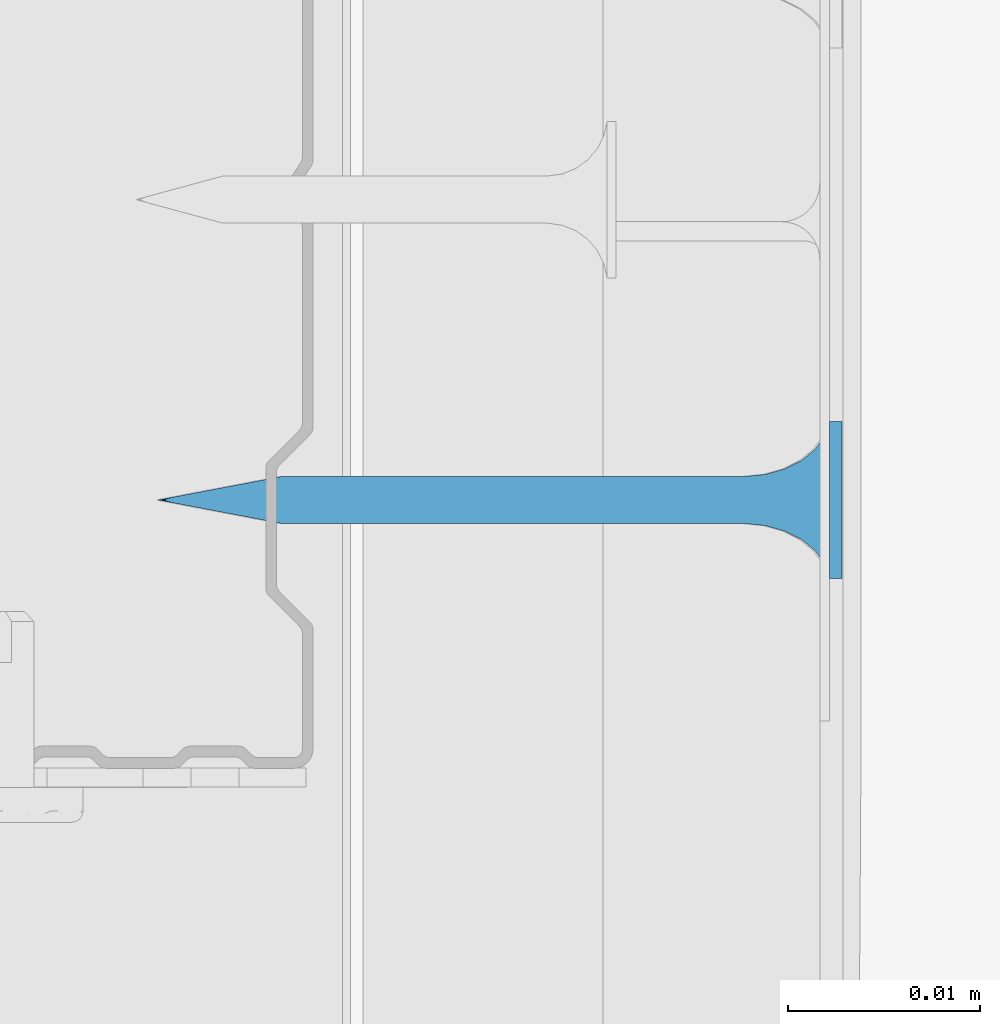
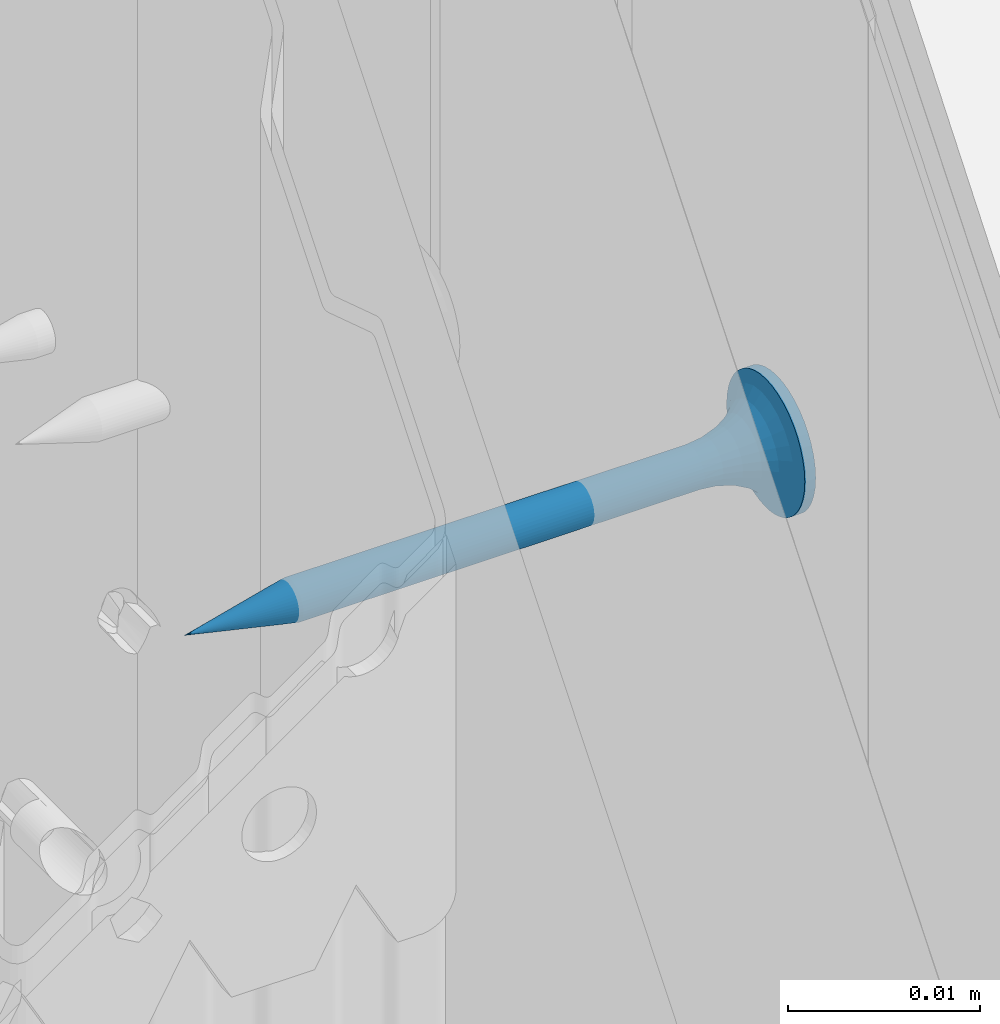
# One storey, part 14 of 62: 1 wall.
"""IFC2X3 building model written with IfcOpenShell, lengths in millimetres."""

from ifc_helpers import new_model, si_unit, frame, origin_with_axes, place, context, subcontext, project, spatial, faceted_brep, material, type_object, element, save


model = new_model("IFC2X3")

# Units and contexts
model_context = context("Model", 3, world=origin_with_axes())
body_context = subcontext(model_context, "Body", "Model", "MODEL_VIEW")
ifc_project = project(units=[si_unit("LENGTHUNIT", "METRE", prefix="MILLI"), si_unit("AREAUNIT", "SQUARE_METRE"), si_unit("VOLUMEUNIT", "CUBIC_METRE")], contexts=[model_context])

# Site, building, storey
site_placement = place(None, frame((2152.14102611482, -2015.0250894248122, 57.61556563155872), z_axis=(0.0, 0.0, 1.0), x_axis=(-1.1102230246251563e-16, 1.0, 0.0)))
site = spatial("IfcSite", under=ifc_project, at=site_placement, Name="Default Site", CompositionType="ELEMENT")
building_placement = place(site_placement, origin_with_axes())
building = spatial("IfcBuilding", under=site, at=building_placement, Name="Default Building", CompositionType="ELEMENT")
storey_placement = place(building_placement, origin_with_axes())
storey = spatial("IfcBuildingStorey", under=building, at=storey_placement, Name="Default Building Storey", CompositionType="ELEMENT", Elevation=57.61556563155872)

# Wall
ifc_material = material(Name="Default")
wall_type = type_object("IfcWallType", Name="Wkręt RIGIPS TN 35#33", PredefinedType="NOTDEFINED")
wall_placement = place(storey_placement, frame((2959.4704820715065, 6749.478129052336, -452.93788946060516), z_axis=(0.0, 0.0, 1.0), x_axis=(1.0, 0.0, 0.0)))
element("IfcWall", 1, at=wall_placement, inside=storey, type_object=wall_type, material=ifc_material, Name="Wkręt RIGIPS TN 35", context=body_context, shape_type="Brep", body=[
    faceted_brep([(-141.48753293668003, -4832.598052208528, 555.1619773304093), (-141.48753293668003, -4833.259714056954, 555.1619773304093), (-141.5377465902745, -4833.259714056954, 555.8000000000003), (-141.5377465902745, -4832.598052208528, 555.8000000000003), (-141.33812900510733, -4832.598052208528, 554.5396649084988), (-141.33812900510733, -4833.259714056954, 554.5396649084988), (-141.09321328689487, -4832.598052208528, 553.948386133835), (-141.09321328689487, -4833.259714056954, 553.948386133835), (-140.75881656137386, -4832.598052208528, 553.4027002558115), (-140.75881656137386, -4833.259714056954, 553.4027002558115), (-140.34317265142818, -4833.259714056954, 552.9160436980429), (-140.45417279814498, -4832.598052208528, 553.0314906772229), (-139.8565160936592, -4833.259714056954, 552.5003997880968), (-140.1080097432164, -4832.598052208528, 552.6986613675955), (-139.72512626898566, -4832.598052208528, 552.4088260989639), (-139.31083021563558, -4833.259714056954, 552.1660030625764), (-139.31083021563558, -4832.598052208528, 552.1660030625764), (-138.71955144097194, -4833.259714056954, 551.9210873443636), (-138.87086516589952, -4832.598052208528, 551.9735585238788), (-138.41133029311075, -4832.598052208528, 551.8341602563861), (-138.0972390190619, -4833.259714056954, 551.7716834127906), (-137.9385961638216, -4832.598052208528, 551.7497405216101), (-137.45921634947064, -4833.259714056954, 551.7214697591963), (-137.45921634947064, -4832.598052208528, 551.7214697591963), (-136.82119367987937, -4832.598052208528, 551.7716834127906), (-136.82119367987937, -4833.259714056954, 551.7716834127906), (-136.19888125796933, -4832.598052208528, 551.9210873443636), (-136.19888125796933, -4833.259714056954, 551.9210873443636), (-135.6076024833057, -4832.598052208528, 552.1660030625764), (-135.6076024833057, -4833.259714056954, 552.1660030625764), (-135.06191660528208, -4832.598052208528, 552.5003997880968), (-135.06191660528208, -4833.259714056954, 552.5003997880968), (-134.57526004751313, -4832.598052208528, 552.9160436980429), (-134.57526004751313, -4833.259714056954, 552.9160436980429), (-134.1596161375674, -4832.598052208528, 553.4027002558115), (-134.1596161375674, -4833.259714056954, 553.4027002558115), (-133.8252194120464, -4832.598052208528, 553.948386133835), (-133.8252194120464, -4833.259714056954, 553.948386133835), (-133.58030369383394, -4832.598052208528, 554.5396649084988), (-133.58030369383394, -4833.259714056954, 554.5396649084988), (-133.3806861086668, -4833.259714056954, 555.8000000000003), (-133.3806861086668, -4832.598052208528, 555.8000000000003), (-133.43089976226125, -4832.598052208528, 556.4380226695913), (-133.43089976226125, -4833.259714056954, 556.4380226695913), (-133.43089976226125, -4833.259714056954, 555.1619773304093), (-133.43089976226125, -4832.598052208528, 555.1619773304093), (-133.58030369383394, -4832.598052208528, 557.0603350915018), (-133.58030369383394, -4833.259714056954, 557.0603350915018), (-133.8252194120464, -4832.598052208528, 557.6516138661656), (-133.8252194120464, -4833.259714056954, 557.6516138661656), (-134.1596161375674, -4832.598052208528, 558.1972997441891), (-134.1596161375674, -4833.259714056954, 558.1972997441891), (-134.57526004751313, -4832.598052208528, 558.6839563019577), (-134.57526004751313, -4833.259714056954, 558.6839563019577), (-135.06191660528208, -4832.598052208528, 559.0996002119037), (-135.06191660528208, -4833.259714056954, 559.0996002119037), (-135.6076024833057, -4832.598052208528, 559.4339969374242), (-135.6076024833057, -4833.259714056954, 559.4339969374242), (-136.19888125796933, -4832.598052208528, 559.678912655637), (-136.19888125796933, -4833.259714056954, 559.678912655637), (-136.82119367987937, -4832.598052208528, 559.82831658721), (-136.82119367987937, -4833.259714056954, 559.82831658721), (-137.45921634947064, -4832.598052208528, 559.8785302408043), (-137.45921634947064, -4833.259714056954, 559.8785302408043), (-138.0972390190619, -4832.598052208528, 559.82831658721), (-138.0972390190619, -4833.259714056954, 559.82831658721), (-138.71955144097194, -4832.598052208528, 559.678912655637), (-138.71955144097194, -4833.259714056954, 559.678912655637), (-139.31083021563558, -4832.598052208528, 559.4339969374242), (-139.31083021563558, -4833.259714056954, 559.4339969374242), (-139.8565160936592, -4832.598052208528, 559.0996002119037), (-139.8565160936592, -4833.259714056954, 559.0996002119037), (-140.34317265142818, -4832.598052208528, 558.6839563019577), (-140.34317265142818, -4833.259714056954, 558.6839563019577), (-140.75881656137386, -4832.598052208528, 558.1972997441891), (-140.75881656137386, -4833.259714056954, 558.1972997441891), (-141.09321328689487, -4832.598052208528, 557.6516138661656), (-141.09321328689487, -4833.259714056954, 557.6516138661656), (-141.33812900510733, -4832.598052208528, 557.0603350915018), (-141.33812900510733, -4833.259714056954, 557.0603350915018), (-141.48753293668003, -4832.598052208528, 556.4380226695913), (-141.48753293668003, -4833.259714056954, 556.4380226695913), (-137.65172779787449, -4828.2062944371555, 554.5845305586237), (-137.45921634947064, -4828.2062944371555, 554.5693795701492), (-137.8060615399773, -4829.281368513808, 554.5055561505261), (-137.45921634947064, -4829.281368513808, 554.4598930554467), (-137.83949898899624, -4828.2062944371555, 554.6296104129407), (-138.12926982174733, -4829.281368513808, 554.6394333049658), (-138.01790634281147, -4828.2062944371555, 554.7035091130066), (-138.1825568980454, -4828.2062944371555, 554.8044072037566), (-138.40681506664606, -4829.281368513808, 554.8524012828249), (-138.3293964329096, -4828.2062944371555, 554.9298199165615), (-138.45480914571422, -4828.2062944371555, 555.0766594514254), (-138.6197830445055, -4829.281368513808, 555.1299465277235), (-138.5557072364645, -4828.2062944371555, 555.2413100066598), (-138.753660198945, -4829.281368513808, 555.4531548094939), (-138.62960593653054, -4828.2062944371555, 555.4197173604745), (-138.67468579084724, -4828.2062944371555, 555.6074885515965), (-138.79932329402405, -4829.281368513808, 555.7999999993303), (-138.68983677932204, -4828.2062944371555, 555.8000000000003), (-138.67468579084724, -4828.2062944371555, 555.9925114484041), (-138.753660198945, -4829.281368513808, 556.1468451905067), (-138.62960593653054, -4828.2062944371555, 556.1802826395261), (-138.6197830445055, -4829.281368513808, 556.4700534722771), (-138.5557072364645, -4828.2062944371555, 556.3586899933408), (-138.45480914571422, -4828.2062944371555, 556.5233405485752), (-138.40681506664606, -4829.281368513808, 556.7475987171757), (-138.3293964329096, -4828.2062944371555, 556.670180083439), (-138.1825568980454, -4828.2062944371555, 556.795592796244), (-138.12926982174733, -4829.281368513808, 556.9605666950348), (-138.01790634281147, -4828.2062944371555, 556.896490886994), (-137.8060615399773, -4829.281368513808, 557.0944438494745), (-137.83949898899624, -4828.2062944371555, 556.9703895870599), (-137.65172779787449, -4828.2062944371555, 557.0154694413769), (-137.45921634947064, -4829.281368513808, 557.1401069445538), (-137.45921634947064, -4828.2062944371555, 557.0306204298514), (-137.26670490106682, -4828.2062944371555, 557.0154694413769), (-137.11237115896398, -4829.281368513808, 557.0944438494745), (-137.07893370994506, -4828.2062944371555, 556.9703895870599), (-136.78916287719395, -4829.281368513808, 556.9605666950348), (-136.9005263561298, -4828.2062944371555, 556.896490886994), (-136.7358758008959, -4828.2062944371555, 556.795592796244), (-136.5116176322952, -4829.281368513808, 556.7475987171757), (-136.58903626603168, -4828.2062944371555, 556.670180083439), (-136.46362355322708, -4828.2062944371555, 556.5233405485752), (-136.2986496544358, -4829.281368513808, 556.4700534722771), (-136.36272546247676, -4828.2062944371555, 556.3586899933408), (-136.16477249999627, -4829.281368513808, 556.1468451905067), (-136.28882676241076, -4828.2062944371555, 556.1802826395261), (-136.24374690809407, -4828.2062944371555, 555.9925114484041), (-136.11910940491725, -4829.281368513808, 555.7999999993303), (-136.22859591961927, -4828.2062944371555, 555.8000000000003), (-136.24374690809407, -4828.2062944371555, 555.6074885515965), (-136.16477249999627, -4829.281368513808, 555.4531548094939), (-136.28882676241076, -4828.2062944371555, 555.4197173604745), (-136.2986496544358, -4829.281368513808, 555.1299465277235), (-136.36272546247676, -4828.2062944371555, 555.2413100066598), (-136.46362355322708, -4828.2062944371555, 555.0766594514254), (-136.5116176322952, -4829.281368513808, 554.8524012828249), (-136.58903626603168, -4828.2062944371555, 554.9298199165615), (-136.7358758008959, -4828.2062944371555, 554.8044072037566), (-136.78916287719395, -4829.281368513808, 554.6394333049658), (-136.9005263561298, -4828.2062944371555, 554.7035091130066), (-137.11237115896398, -4829.281368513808, 554.5055561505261), (-137.07893370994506, -4828.2062944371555, 554.6296104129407), (-137.26670490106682, -4828.2062944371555, 554.5845305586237), (-137.45921634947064, -4830.288222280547, 554.1737111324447), (-137.88013087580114, -4830.288222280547, 554.2291255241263), (-138.2723607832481, -4830.288222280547, 554.3915925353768), (-138.60917621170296, -4830.288222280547, 554.6500401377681), (-138.8676238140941, -4830.288222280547, 554.9868555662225), (-139.03009082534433, -4830.288222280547, 555.37908547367), (-139.08550521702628, -4830.288222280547, 555.7999999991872), (-139.03009082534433, -4830.288222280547, 556.2209145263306), (-138.8676238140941, -4830.288222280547, 556.6131444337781), (-138.60917621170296, -4830.288222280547, 556.9499598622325), (-138.2723607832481, -4830.288222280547, 557.2084074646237), (-137.88013087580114, -4830.288222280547, 557.3708744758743), (-137.45921634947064, -4830.288222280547, 557.4262888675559), (-137.03830182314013, -4830.288222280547, 557.3708744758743), (-136.64607191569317, -4830.288222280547, 557.2084074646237), (-136.30925648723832, -4830.288222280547, 556.9499598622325), (-136.05080888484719, -4830.288222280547, 556.6131444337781), (-135.88834187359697, -4830.288222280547, 556.2209145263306), (-135.832927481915, -4830.288222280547, 555.7999999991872), (-135.88834187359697, -4830.288222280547, 555.37908547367), (-136.05080888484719, -4830.288222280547, 554.9868555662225), (-136.30925648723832, -4830.288222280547, 554.6500401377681), (-136.64607191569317, -4830.288222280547, 554.3915925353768), (-137.03830182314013, -4830.288222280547, 554.2291255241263), (-137.45921634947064, -4831.168773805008, 553.7273430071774), (-137.99565943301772, -4831.168773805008, 553.7979670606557), (-138.49554484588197, -4831.168773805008, 554.0050264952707), (-138.92480608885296, -4831.168773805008, 554.334410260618), (-139.25418985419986, -4831.168773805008, 554.7636715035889), (-139.46124928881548, -4831.168773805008, 555.2635569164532), (-139.53187334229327, -4831.168773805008, 555.7999999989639), (-139.46124928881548, -4831.168773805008, 556.3364430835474), (-139.25418985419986, -4831.168773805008, 556.8363284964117), (-138.92480608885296, -4831.168773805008, 557.2655897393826), (-138.49554484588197, -4831.168773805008, 557.5949735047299), (-137.99565943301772, -4831.168773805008, 557.8020329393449), (-137.45921634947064, -4831.168773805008, 557.8726569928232), (-136.92277326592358, -4831.168773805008, 557.8020329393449), (-136.42288785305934, -4831.168773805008, 557.5949735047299), (-135.9936266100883, -4831.168773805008, 557.2655897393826), (-135.6642428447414, -4831.168773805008, 556.8363284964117), (-135.45718341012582, -4831.168773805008, 556.3364430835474), (-135.386559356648, -4831.168773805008, 555.7999999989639), (-135.45718341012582, -4831.168773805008, 555.2635569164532), (-135.6642428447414, -4831.168773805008, 554.7636715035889), (-135.9936266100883, -4831.168773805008, 554.334410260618), (-136.42288785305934, -4831.168773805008, 554.0050264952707), (-136.92277326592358, -4831.168773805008, 553.7979670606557), (-137.45921634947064, -4831.872222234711, 553.1465392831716), (-138.14598252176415, -4831.872222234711, 553.2369539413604), (-138.78594670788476, -4831.872222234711, 553.5020355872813), (-139.33549641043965, -4831.872222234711, 553.923719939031), (-139.75718076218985, -4831.872222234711, 554.473269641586), (-140.02226240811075, -4831.872222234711, 555.1132338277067), (-140.11267706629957, -4831.872222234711, 555.7999999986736), (-140.02226240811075, -4831.872222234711, 556.4867661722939), (-139.75718076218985, -4831.872222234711, 557.1267303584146), (-139.33549641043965, -4831.872222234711, 557.6762800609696), (-138.78594670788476, -4831.872222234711, 558.0979644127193), (-138.14598252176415, -4831.872222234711, 558.3630460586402), (-137.45921634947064, -4831.872222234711, 558.453460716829), (-136.77245017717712, -4831.872222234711, 558.3630460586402), (-136.13248599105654, -4831.872222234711, 558.0979644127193), (-135.58293628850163, -4831.872222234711, 557.6762800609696), (-135.16125193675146, -4831.872222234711, 557.1267303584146), (-134.89617029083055, -4831.872222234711, 556.4867661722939), (-134.8057556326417, -4831.872222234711, 555.7999999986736), (-134.89617029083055, -4831.872222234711, 555.1132338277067), (-135.16125193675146, -4831.872222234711, 554.473269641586), (-135.58293628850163, -4831.872222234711, 553.923719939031), (-136.13248599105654, -4831.872222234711, 553.5020355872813), (-136.77245017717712, -4831.872222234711, 553.2369539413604), (-137.45921634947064, -4832.357990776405, 552.4648055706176), (-138.3224281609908, -4832.357990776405, 552.5784495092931), (-139.12681356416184, -4832.357990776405, 552.9116369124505), (-139.8175549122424, -4832.357990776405, 553.4416614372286), (-140.34757943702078, -4832.357990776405, 554.132402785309), (-140.680766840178, -4832.357990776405, 554.9367881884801), (-140.79441077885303, -4832.357990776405, 555.7999999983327), (-140.680766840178, -4832.357990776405, 556.6632118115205), (-140.34757943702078, -4832.357990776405, 557.4675972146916), (-139.8175549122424, -4832.357990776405, 558.158338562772), (-139.12681356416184, -4832.357990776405, 558.6883630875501), (-138.3224281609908, -4832.357990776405, 559.0215504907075), (-137.45921634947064, -4832.357990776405, 559.135194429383), (-136.5960045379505, -4832.357990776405, 559.0215504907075), (-135.79161913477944, -4832.357990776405, 558.6883630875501), (-135.10087778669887, -4832.357990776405, 558.158338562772), (-134.5708532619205, -4832.357990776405, 557.4675972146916), (-134.23766585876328, -4832.357990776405, 556.6632118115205), (-134.12402192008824, -4832.357990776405, 555.7999999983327), (-134.23766585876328, -4832.357990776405, 554.9367881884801), (-134.5708532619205, -4832.357990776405, 554.132402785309), (-135.10087778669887, -4832.357990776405, 553.4416614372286), (-135.79161913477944, -4832.357990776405, 552.9116369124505), (-136.5960045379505, -4832.357990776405, 552.5784495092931), (-138.67468579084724, -4804.093757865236, 555.6074885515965), (-138.68983677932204, -4804.093757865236, 555.8000000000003), (-138.62960593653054, -4804.093757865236, 555.4197173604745), (-138.5557072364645, -4804.093757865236, 555.2413100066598), (-138.45480914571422, -4804.093757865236, 555.0766594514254), (-138.3293964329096, -4804.093757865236, 554.9298199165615), (-138.1825568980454, -4804.093757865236, 554.8044072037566), (-138.01790634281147, -4804.093757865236, 554.7035091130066), (-137.83949898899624, -4804.093757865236, 554.6296104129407), (-137.65172779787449, -4804.093757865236, 554.5845305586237), (-137.45921634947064, -4804.093757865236, 554.5693795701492), (-137.26670490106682, -4804.093757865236, 554.5845305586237), (-137.07893370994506, -4804.093757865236, 554.6296104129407), (-136.9005263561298, -4804.093757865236, 554.7035091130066), (-136.7358758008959, -4804.093757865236, 554.8044072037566), (-136.58903626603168, -4804.093757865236, 554.9298199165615), (-136.46362355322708, -4804.093757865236, 555.0766594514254), (-136.36272546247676, -4804.093757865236, 555.2413100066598), (-136.28882676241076, -4804.093757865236, 555.4197173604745), (-136.22859591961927, -4804.093757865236, 555.8000000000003), (-136.24374690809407, -4804.093757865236, 555.9925114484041), (-136.24374690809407, -4804.093757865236, 555.6074885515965), (-136.28882676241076, -4804.093757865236, 556.1802826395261), (-136.36272546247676, -4804.093757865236, 556.3586899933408), (-136.46362355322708, -4804.093757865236, 556.5233405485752), (-136.58903626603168, -4804.093757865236, 556.670180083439), (-136.7358758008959, -4804.093757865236, 556.795592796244), (-136.9005263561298, -4804.093757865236, 556.896490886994), (-137.07893370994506, -4804.093757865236, 556.9703895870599), (-137.26670490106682, -4804.093757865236, 557.0154694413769), (-137.45921634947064, -4804.093757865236, 557.0306204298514), (-137.65172779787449, -4804.093757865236, 557.0154694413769), (-137.83949898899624, -4804.093757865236, 556.9703895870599), (-138.01790634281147, -4804.093757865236, 556.896490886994), (-138.1825568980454, -4804.093757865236, 556.795592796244), (-138.3293964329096, -4804.093757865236, 556.670180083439), (-138.45480914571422, -4804.093757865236, 556.5233405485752), (-138.5557072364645, -4804.093757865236, 556.3586899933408), (-138.62960593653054, -4804.093757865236, 556.1802826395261), (-138.67468579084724, -4804.093757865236, 555.9925114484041), (-137.45921634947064, -4797.627062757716, 555.8000000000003), (-139.95921629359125, -4833.259714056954, 555.2999999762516), (-139.95921629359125, -4833.259714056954, 556.300000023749), (-137.95921637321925, -4833.259714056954, 556.300000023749), (-137.95921637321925, -4833.259714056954, 558.2999999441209), (-136.95921632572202, -4833.259714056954, 558.2999999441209), (-136.95921632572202, -4833.259714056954, 556.300000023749), (-134.95921640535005, -4833.259714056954, 556.300000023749), (-134.95921640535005, -4833.259714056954, 555.2999999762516), (-136.95921632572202, -4833.259714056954, 555.2999999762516), (-136.95921632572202, -4833.259714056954, 553.3000000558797), (-137.95921637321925, -4833.259714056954, 553.3000000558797), (-137.95921637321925, -4833.259714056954, 555.2999999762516), (-136.95921632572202, -4832.888378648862, 558.2999999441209), (-137.95921637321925, -4832.888378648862, 558.2999999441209), (-137.95921637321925, -4832.888378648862, 556.300000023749), (-139.95921629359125, -4832.888378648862, 556.300000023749), (-139.95921629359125, -4832.888378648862, 555.2999999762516), (-137.95921637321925, -4832.888378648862, 555.2999999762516), (-137.95921637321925, -4832.888378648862, 553.3000000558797), (-136.95921632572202, -4832.888378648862, 553.3000000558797), (-136.95921632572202, -4832.888378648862, 555.2999999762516), (-134.95921640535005, -4832.888378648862, 555.2999999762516), (-134.95921640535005, -4832.888378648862, 556.300000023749), (-136.95921632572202, -4832.888378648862, 556.300000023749)], [[[0, 1, 2, 3]], [[1, 0, 4, 5]], [[5, 4, 6, 7]], [[8, 9, 7, 6]], [[8, 10, 9]], [[8, 11, 10]], [[12, 11, 13]], [[12, 10, 11]], [[13, 14, 12]], [[14, 15, 12]], [[14, 16, 15]], [[17, 16, 18]], [[17, 15, 16]], [[18, 19, 17]], [[20, 19, 21]], [[20, 17, 19]], [[21, 22, 20]], [[21, 23, 22]], [[24, 25, 22, 23]], [[25, 24, 26, 27]], [[27, 26, 28, 29]], [[30, 31, 29, 28]], [[31, 30, 32, 33]], [[34, 35, 33, 32]], [[35, 34, 36, 37]], [[37, 36, 38, 39]], [[40, 41, 42, 43]], [[44, 45, 41, 40]], [[45, 44, 39, 38]], [[43, 42, 46, 47]], [[47, 46, 48, 49]], [[50, 51, 49, 48]], [[51, 50, 52, 53]], [[54, 55, 53, 52]], [[55, 54, 56, 57]], [[57, 56, 58, 59]], [[60, 61, 59, 58]], [[61, 60, 62, 63]], [[64, 65, 63, 62]], [[65, 64, 66, 67]], [[67, 66, 68, 69]], [[70, 71, 69, 68]], [[71, 70, 72, 73]], [[74, 75, 73, 72]], [[75, 74, 76, 77]], [[77, 76, 78, 79]], [[80, 81, 79, 78]], [[81, 80, 3, 2]], [[82, 83, 84]], [[83, 85, 84]], [[84, 86, 82]], [[84, 87, 88, 86]], [[89, 88, 87]], [[87, 90, 89]], [[90, 91, 89]], [[92, 91, 93]], [[91, 90, 93]], [[93, 94, 92]], [[93, 95, 96, 94]], [[97, 96, 95]], [[95, 98, 97]], [[98, 99, 97]], [[100, 99, 101]], [[99, 98, 101]], [[101, 102, 100]], [[101, 103, 104, 102]], [[105, 104, 103]], [[103, 106, 105]], [[106, 107, 105]], [[108, 107, 109]], [[107, 106, 109]], [[109, 110, 108]], [[109, 111, 112, 110]], [[113, 112, 111]], [[111, 114, 113]], [[114, 115, 113]], [[116, 115, 117]], [[115, 114, 117]], [[117, 118, 116]], [[117, 119, 120, 118]], [[121, 120, 119]], [[119, 122, 121]], [[122, 123, 121]], [[124, 123, 125]], [[123, 122, 125]], [[125, 126, 124]], [[125, 127, 128, 126]], [[129, 128, 127]], [[127, 130, 129]], [[130, 131, 129]], [[132, 131, 133]], [[131, 130, 133]], [[133, 134, 132]], [[133, 135, 136, 134]], [[137, 136, 135]], [[135, 138, 137]], [[138, 139, 137]], [[140, 139, 141]], [[139, 138, 141]], [[141, 142, 140]], [[141, 143, 144, 142]], [[145, 144, 143]], [[143, 85, 145]], [[85, 83, 145]], [[146, 147, 84, 85]], [[84, 147, 148, 87]], [[87, 148, 149, 90]], [[90, 149, 150, 93]], [[93, 150, 151, 95]], [[95, 151, 152, 98]], [[98, 152, 153, 101]], [[101, 153, 154, 103]], [[103, 154, 155, 106]], [[106, 155, 156, 109]], [[109, 156, 157, 111]], [[111, 157, 158, 114]], [[114, 158, 159, 117]], [[117, 159, 160, 119]], [[119, 160, 161, 122]], [[122, 161, 162, 125]], [[125, 162, 163, 127]], [[127, 163, 164, 130]], [[130, 164, 165, 133]], [[133, 165, 166, 135]], [[135, 166, 167, 138]], [[138, 167, 168, 141]], [[141, 168, 169, 143]], [[143, 169, 146, 85]], [[170, 171, 147, 146]], [[147, 171, 172, 148]], [[148, 172, 173, 149]], [[149, 173, 174, 150]], [[150, 174, 175, 151]], [[151, 175, 176, 152]], [[152, 176, 177, 153]], [[153, 177, 178, 154]], [[154, 178, 179, 155]], [[155, 179, 180, 156]], [[156, 180, 181, 157]], [[157, 181, 182, 158]], [[158, 182, 183, 159]], [[159, 183, 184, 160]], [[160, 184, 185, 161]], [[161, 185, 186, 162]], [[162, 186, 187, 163]], [[163, 187, 188, 164]], [[164, 188, 189, 165]], [[165, 189, 190, 166]], [[166, 190, 191, 167]], [[167, 191, 192, 168]], [[168, 192, 193, 169]], [[169, 193, 170, 146]], [[194, 195, 171, 170]], [[171, 195, 196, 172]], [[172, 196, 197, 173]], [[173, 197, 198, 174]], [[174, 198, 199, 175]], [[175, 199, 200, 176]], [[176, 200, 201, 177]], [[177, 201, 202, 178]], [[178, 202, 203, 179]], [[179, 203, 204, 180]], [[180, 204, 205, 181]], [[181, 205, 206, 182]], [[182, 206, 207, 183]], [[183, 207, 208, 184]], [[184, 208, 209, 185]], [[185, 209, 210, 186]], [[186, 210, 211, 187]], [[187, 211, 212, 188]], [[188, 212, 213, 189]], [[189, 213, 214, 190]], [[190, 214, 215, 191]], [[191, 215, 216, 192]], [[192, 216, 217, 193]], [[193, 217, 194, 170]], [[21, 19, 218]], [[19, 219, 218]], [[218, 23, 21]], [[218, 219, 195, 194]], [[18, 16, 219]], [[16, 220, 219]], [[219, 19, 18]], [[195, 219, 220, 196]], [[13, 11, 221]], [[14, 13, 220]], [[13, 221, 220]], [[220, 16, 14]], [[196, 220, 221, 197]], [[8, 6, 222]], [[222, 221, 8]], [[221, 11, 8]], [[197, 221, 222, 198]], [[4, 223, 222, 6]], [[198, 222, 223, 199]], [[0, 3, 223]], [[3, 224, 223]], [[223, 4, 0]], [[199, 223, 224, 200]], [[80, 78, 225]], [[225, 224, 80]], [[224, 3, 80]], [[200, 224, 225, 201]], [[78, 76, 226, 225]], [[201, 225, 226, 202]], [[74, 72, 226]], [[72, 227, 226]], [[226, 76, 74]], [[202, 226, 227, 203]], [[70, 68, 228]], [[228, 227, 70]], [[227, 72, 70]], [[203, 227, 228, 204]], [[68, 66, 229, 228]], [[204, 228, 229, 205]], [[64, 62, 229]], [[62, 230, 229]], [[229, 66, 64]], [[205, 229, 230, 206]], [[60, 58, 231]], [[231, 230, 60]], [[230, 62, 60]], [[206, 230, 231, 207]], [[58, 56, 232, 231]], [[207, 231, 232, 208]], [[54, 52, 232]], [[52, 233, 232]], [[232, 56, 54]], [[208, 232, 233, 209]], [[50, 48, 234]], [[234, 233, 50]], [[233, 52, 50]], [[209, 233, 234, 210]], [[48, 46, 235, 234]], [[210, 234, 235, 211]], [[42, 41, 235]], [[41, 236, 235]], [[235, 46, 42]], [[211, 235, 236, 212]], [[45, 38, 237]], [[237, 236, 45]], [[236, 41, 45]], [[212, 236, 237, 213]], [[36, 238, 237, 38]], [[213, 237, 238, 214]], [[34, 32, 238]], [[32, 239, 238]], [[238, 36, 34]], [[214, 238, 239, 215]], [[30, 28, 240]], [[240, 239, 30]], [[239, 32, 30]], [[215, 239, 240, 216]], [[26, 241, 240, 28]], [[216, 240, 241, 217]], [[217, 241, 218, 194]], [[24, 23, 241]], [[23, 218, 241]], [[241, 26, 24]], [[242, 97, 99, 243]], [[97, 242, 244, 96]], [[96, 244, 245, 94]], [[246, 92, 94, 245]], [[92, 246, 247, 91]], [[248, 89, 91, 247]], [[89, 248, 249, 88]], [[88, 249, 250, 86]], [[251, 82, 86, 250]], [[82, 251, 252, 83]], [[253, 145, 83, 252]], [[145, 253, 254, 144]], [[144, 254, 255, 142]], [[256, 140, 142, 255]], [[140, 256, 257, 139]], [[258, 137, 139, 257]], [[137, 258, 259, 136]], [[136, 259, 260, 134]], [[131, 261, 262, 129]], [[132, 263, 261, 131]], [[263, 132, 134, 260]], [[129, 262, 264, 128]], [[128, 264, 265, 126]], [[266, 124, 126, 265]], [[124, 266, 267, 123]], [[268, 121, 123, 267]], [[121, 268, 269, 120]], [[120, 269, 270, 118]], [[271, 116, 118, 270]], [[116, 271, 272, 115]], [[273, 113, 115, 272]], [[113, 273, 274, 112]], [[112, 274, 275, 110]], [[276, 108, 110, 275]], [[108, 276, 277, 107]], [[278, 105, 107, 277]], [[105, 278, 279, 104]], [[104, 279, 280, 102]], [[281, 100, 102, 280]], [[100, 281, 243, 99]], [[282, 244, 242]], [[242, 243, 282]], [[282, 245, 244]], [[282, 247, 246]], [[246, 245, 282]], [[282, 249, 248]], [[248, 247, 282]], [[282, 250, 249]], [[282, 252, 251]], [[251, 250, 282]], [[282, 254, 253]], [[253, 252, 282]], [[282, 255, 254]], [[282, 257, 256]], [[256, 255, 282]], [[282, 259, 258]], [[258, 257, 282]], [[282, 260, 259]], [[282, 261, 263]], [[263, 260, 282]], [[282, 264, 262]], [[262, 261, 282]], [[282, 265, 264]], [[282, 267, 266]], [[266, 265, 282]], [[282, 269, 268]], [[268, 267, 282]], [[282, 270, 269]], [[282, 272, 271]], [[271, 270, 282]], [[282, 274, 273]], [[273, 272, 282]], [[282, 275, 274]], [[282, 277, 276]], [[276, 275, 282]], [[282, 279, 278]], [[278, 277, 282]], [[282, 280, 279]], [[282, 243, 281]], [[281, 280, 282]], [[75, 77, 79, 81, 2, 1, 5, 7, 9, 10, 12, 15, 17, 20, 22, 25, 27, 29, 31, 33, 35, 37, 39, 44, 40, 43, 47, 49, 51, 53, 55, 57, 59, 61, 63, 65, 67, 69, 71, 73], [283, 284, 285, 286, 287, 288, 289, 290, 291, 292, 293, 294]], [[295, 296, 297, 298, 299, 300, 301, 302, 303, 304, 305, 306]], [[303, 291, 290, 304]], [[304, 290, 289, 305]], [[305, 289, 288, 306]], [[306, 288, 287, 295]], [[295, 287, 286, 296]], [[296, 286, 285, 297]], [[297, 285, 284, 298]], [[298, 284, 283, 299]], [[299, 283, 294, 300]], [[300, 294, 293, 301]], [[301, 293, 292, 302]], [[302, 292, 291, 303]]]),
])

save(model, "model.ifc")
